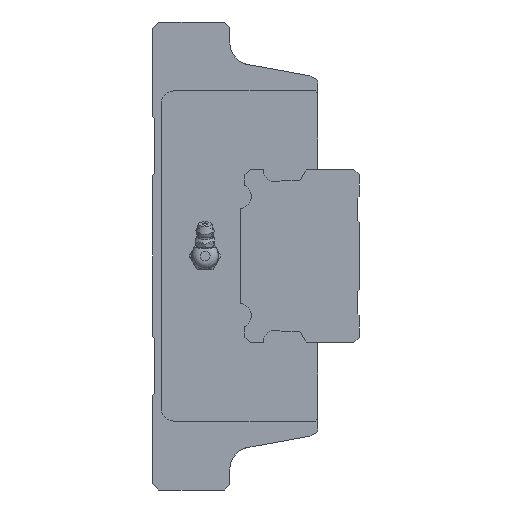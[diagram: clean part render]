
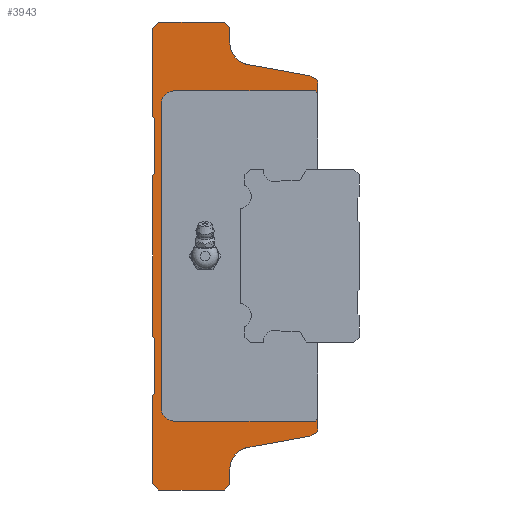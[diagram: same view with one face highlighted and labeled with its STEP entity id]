
A CAD part, left-side view. The second image highlights one B-rep face of the part: STEP entity #3943.
In plain terms, the highlighted planar face has unit normal (-1, 0, 0).
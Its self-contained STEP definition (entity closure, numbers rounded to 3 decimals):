
#188=CIRCLE('',#4250,8.);
#191=CIRCLE('',#4261,8.);
#203=CIRCLE('',#4279,8.);
#204=CIRCLE('',#4282,8.);
#245=CIRCLE('',#4350,5.);
#246=CIRCLE('',#4351,5.);
#1017=ORIENTED_EDGE('',*,*,#1866,.F.);
#1018=ORIENTED_EDGE('',*,*,#1708,.F.);
#1019=ORIENTED_EDGE('',*,*,#1704,.F.);
#1020=ORIENTED_EDGE('',*,*,#1812,.F.);
#1021=ORIENTED_EDGE('',*,*,#1701,.T.);
#1022=ORIENTED_EDGE('',*,*,#1640,.F.);
#1023=ORIENTED_EDGE('',*,*,#1637,.F.);
#1024=ORIENTED_EDGE('',*,*,#1803,.F.);
#1025=ORIENTED_EDGE('',*,*,#1794,.F.);
#1026=ORIENTED_EDGE('',*,*,#1857,.F.);
#1027=ORIENTED_EDGE('',*,*,#1854,.F.);
#1028=ORIENTED_EDGE('',*,*,#1851,.F.);
#1029=ORIENTED_EDGE('',*,*,#1848,.F.);
#1030=ORIENTED_EDGE('',*,*,#1845,.F.);
#1031=ORIENTED_EDGE('',*,*,#1842,.F.);
#1032=ORIENTED_EDGE('',*,*,#1839,.F.);
#1033=ORIENTED_EDGE('',*,*,#1836,.F.);
#1034=ORIENTED_EDGE('',*,*,#1833,.F.);
#1035=ORIENTED_EDGE('',*,*,#1830,.F.);
#1036=ORIENTED_EDGE('',*,*,#1826,.F.);
#1037=ORIENTED_EDGE('',*,*,#1616,.F.);
#1038=ORIENTED_EDGE('',*,*,#1613,.F.);
#1039=ORIENTED_EDGE('',*,*,#1684,.T.);
#1040=ORIENTED_EDGE('',*,*,#1677,.F.);
#1041=ORIENTED_EDGE('',*,*,#1666,.F.);
#1042=ORIENTED_EDGE('',*,*,#1723,.F.);
#1043=ORIENTED_EDGE('',*,*,#1867,.F.);
#1044=ORIENTED_EDGE('',*,*,#1868,.F.);
#1045=ORIENTED_EDGE('',*,*,#1869,.F.);
#1046=ORIENTED_EDGE('',*,*,#1870,.F.);
#1047=ORIENTED_EDGE('',*,*,#1871,.F.);
#1048=ORIENTED_EDGE('',*,*,#1872,.F.);
#1613=EDGE_CURVE('',#2121,#2119,#2488,.T.);
#1616=EDGE_CURVE('',#2119,#2123,#2491,.T.);
#1637=EDGE_CURVE('',#2143,#2141,#2504,.T.);
#1640=EDGE_CURVE('',#2141,#2145,#2507,.T.);
#1666=EDGE_CURVE('',#2163,#2164,#188,.T.);
#1677=EDGE_CURVE('',#2164,#2174,#2524,.T.);
#1684=EDGE_CURVE('',#2121,#2174,#191,.T.);
#1701=EDGE_CURVE('',#2191,#2145,#203,.T.);
#1704=EDGE_CURVE('',#2192,#2193,#204,.T.);
#1708=EDGE_CURVE('',#2193,#2196,#2532,.T.);
#1723=EDGE_CURVE('',#2207,#2163,#2545,.T.);
#1794=EDGE_CURVE('',#2274,#2275,#2582,.T.);
#1803=EDGE_CURVE('',#2275,#2143,#2591,.T.);
#1812=EDGE_CURVE('',#2191,#2192,#2600,.T.);
#1826=EDGE_CURVE('',#2123,#2294,#2613,.T.);
#1830=EDGE_CURVE('',#2294,#2296,#2617,.T.);
#1833=EDGE_CURVE('',#2296,#2298,#2620,.T.);
#1836=EDGE_CURVE('',#2298,#2300,#2623,.T.);
#1839=EDGE_CURVE('',#2300,#2302,#2626,.T.);
#1842=EDGE_CURVE('',#2302,#2304,#2629,.T.);
#1845=EDGE_CURVE('',#2304,#2306,#2632,.T.);
#1848=EDGE_CURVE('',#2306,#2308,#2635,.T.);
#1851=EDGE_CURVE('',#2308,#2310,#2638,.T.);
#1854=EDGE_CURVE('',#2310,#2312,#2641,.T.);
#1857=EDGE_CURVE('',#2312,#2274,#2644,.T.);
#1866=EDGE_CURVE('',#2196,#2320,#2651,.T.);
#1867=EDGE_CURVE('',#2321,#2207,#2652,.T.);
#1868=EDGE_CURVE('',#2322,#2321,#2653,.T.);
#1869=EDGE_CURVE('',#2323,#2322,#245,.F.);
#1870=EDGE_CURVE('',#2324,#2323,#2654,.T.);
#1871=EDGE_CURVE('',#2325,#2324,#246,.F.);
#1872=EDGE_CURVE('',#2320,#2325,#2655,.T.);
#2119=VERTEX_POINT('',#5999);
#2121=VERTEX_POINT('',#6003);
#2123=VERTEX_POINT('',#6008);
#2141=VERTEX_POINT('',#6063);
#2143=VERTEX_POINT('',#6067);
#2145=VERTEX_POINT('',#6072);
#2163=VERTEX_POINT('',#6139);
#2164=VERTEX_POINT('',#6141);
#2174=VERTEX_POINT('',#6174);
#2191=VERTEX_POINT('',#6235);
#2192=VERTEX_POINT('',#6240);
#2193=VERTEX_POINT('',#6242);
#2196=VERTEX_POINT('',#6251);
#2207=VERTEX_POINT('',#6277);
#2274=VERTEX_POINT('',#6419);
#2275=VERTEX_POINT('',#6420);
#2294=VERTEX_POINT('',#6479);
#2296=VERTEX_POINT('',#6486);
#2298=VERTEX_POINT('',#6492);
#2300=VERTEX_POINT('',#6498);
#2302=VERTEX_POINT('',#6504);
#2304=VERTEX_POINT('',#6510);
#2306=VERTEX_POINT('',#6516);
#2308=VERTEX_POINT('',#6522);
#2310=VERTEX_POINT('',#6528);
#2312=VERTEX_POINT('',#6534);
#2320=VERTEX_POINT('',#6557);
#2321=VERTEX_POINT('',#6559);
#2322=VERTEX_POINT('',#6561);
#2323=VERTEX_POINT('',#6563);
#2324=VERTEX_POINT('',#6565);
#2325=VERTEX_POINT('',#6567);
#2488=LINE('',#6004,#2814);
#2491=LINE('',#6010,#2817);
#2504=LINE('',#6068,#2830);
#2507=LINE('',#6074,#2833);
#2524=LINE('',#6173,#2850);
#2532=LINE('',#6250,#2858);
#2545=LINE('',#6278,#2871);
#2582=LINE('',#6418,#2908);
#2591=LINE('',#6436,#2917);
#2600=LINE('',#6452,#2926);
#2613=LINE('',#6478,#2939);
#2617=LINE('',#6485,#2943);
#2620=LINE('',#6491,#2946);
#2623=LINE('',#6497,#2949);
#2626=LINE('',#6503,#2952);
#2629=LINE('',#6509,#2955);
#2632=LINE('',#6515,#2958);
#2635=LINE('',#6521,#2961);
#2638=LINE('',#6527,#2964);
#2641=LINE('',#6533,#2967);
#2644=LINE('',#6539,#2970);
#2651=LINE('',#6556,#2977);
#2652=LINE('',#6558,#2978);
#2653=LINE('',#6560,#2979);
#2654=LINE('',#6564,#2980);
#2655=LINE('',#6568,#2981);
#2814=VECTOR('',#4868,1000.);
#2817=VECTOR('',#4873,1000.);
#2830=VECTOR('',#4902,1000.);
#2833=VECTOR('',#4907,1000.);
#2850=VECTOR('',#4968,1000.);
#2858=VECTOR('',#5038,1000.);
#2871=VECTOR('',#5057,1000.);
#2908=VECTOR('',#5168,1000.);
#2917=VECTOR('',#5179,1000.);
#2926=VECTOR('',#5194,1000.);
#2939=VECTOR('',#5217,1000.);
#2943=VECTOR('',#5223,1000.);
#2946=VECTOR('',#5228,1000.);
#2949=VECTOR('',#5233,1000.);
#2952=VECTOR('',#5238,1000.);
#2955=VECTOR('',#5243,1000.);
#2958=VECTOR('',#5248,1000.);
#2961=VECTOR('',#5253,1000.);
#2964=VECTOR('',#5258,1000.);
#2967=VECTOR('',#5263,1000.);
#2970=VECTOR('',#5268,1000.);
#2977=VECTOR('',#5283,1000.);
#2978=VECTOR('',#5284,1000.);
#2979=VECTOR('',#5285,1000.);
#2980=VECTOR('',#5288,1000.);
#2981=VECTOR('',#5291,1000.);
#3220=EDGE_LOOP('',(#1017,#1018,#1019,#1020,#1021,#1022,#1023,#1024,#1025,
#1026,#1027,#1028,#1029,#1030,#1031,#1032,#1033,#1034,#1035,#1036,#1037,
#1038,#1039,#1040,#1041,#1042,#1043,#1044,#1045,#1046,#1047,#1048));
#3543=FACE_BOUND('',#3220,.T.);
#3763=PLANE('',#4349);
#3943=ADVANCED_FACE('',(#3543),#3763,.F.);
#4250=AXIS2_PLACEMENT_3D('',#6140,#4951,#4952);
#4261=AXIS2_PLACEMENT_3D('',#6189,#4981,#4982);
#4279=AXIS2_PLACEMENT_3D('',#6234,#5019,#5020);
#4282=AXIS2_PLACEMENT_3D('',#6241,#5027,#5028);
#4349=AXIS2_PLACEMENT_3D('',#6555,#5281,#5282);
#4350=AXIS2_PLACEMENT_3D('',#6562,#5286,#5287);
#4351=AXIS2_PLACEMENT_3D('',#6566,#5289,#5290);
#4868=DIRECTION('',(0.,0.,-1.));
#4873=DIRECTION('',(0.,0.707,-0.707));
#4902=DIRECTION('',(0.,-0.707,-0.707));
#4907=DIRECTION('',(0.,0.,-1.));
#4951=DIRECTION('',(1.,0.,0.));
#4952=DIRECTION('',(0.,0.,-1.));
#4968=DIRECTION('',(0.,0.984,-0.178));
#4981=DIRECTION('',(1.,0.,0.));
#4982=DIRECTION('',(0.,0.,-1.));
#5019=DIRECTION('',(1.,0.,0.));
#5020=DIRECTION('',(0.,0.,-1.));
#5027=DIRECTION('',(1.,0.,0.));
#5028=DIRECTION('',(0.,0.,-1.));
#5038=DIRECTION('',(0.,0.,-1.));
#5057=DIRECTION('',(0.,0.,-1.));
#5168=DIRECTION('',(0.,-0.707,0.707));
#5179=DIRECTION('',(0.,-1.,0.));
#5194=DIRECTION('',(0.,-0.984,-0.178));
#5217=DIRECTION('',(0.,1.,0.));
#5223=DIRECTION('',(0.,0.707,0.707));
#5228=DIRECTION('',(0.,0.,1.));
#5233=DIRECTION('',(0.,-0.707,0.707));
#5238=DIRECTION('',(0.,0.,1.));
#5243=DIRECTION('',(0.,0.707,0.707));
#5248=DIRECTION('',(0.,0.,1.));
#5253=DIRECTION('',(0.,-0.707,0.707));
#5258=DIRECTION('',(0.,0.,1.));
#5263=DIRECTION('',(0.,0.707,0.707));
#5268=DIRECTION('',(0.,0.,1.));
#5281=DIRECTION('',(1.,0.,0.));
#5282=DIRECTION('',(0.,0.,-1.));
#5283=DIRECTION('',(0.,0.707,0.707));
#5284=DIRECTION('',(0.,-0.707,0.707));
#5285=DIRECTION('',(0.,-1.,0.));
#5286=DIRECTION('',(1.,0.,0.));
#5287=DIRECTION('',(0.,0.,-1.));
#5288=DIRECTION('',(0.,0.,-1.));
#5289=DIRECTION('',(1.,0.,0.));
#5290=DIRECTION('',(0.,0.,-1.));
#5291=DIRECTION('',(0.,1.,0.));
#5999=CARTESIAN_POINT('',(-71.8,32.,-83.));
#6003=CARTESIAN_POINT('',(-71.8,32.,-77.4));
#6004=CARTESIAN_POINT('',(-71.8,32.,-77.4));
#6008=CARTESIAN_POINT('',(-71.8,34.,-85.));
#6010=CARTESIAN_POINT('',(-71.8,32.,-83.));
#6063=CARTESIAN_POINT('',(-71.8,32.,83.));
#6067=CARTESIAN_POINT('',(-71.8,34.,85.));
#6068=CARTESIAN_POINT('',(-71.8,34.,85.));
#6072=CARTESIAN_POINT('',(-71.8,32.,77.4));
#6074=CARTESIAN_POINT('',(-71.8,32.,83.));
#6139=CARTESIAN_POINT('',(-71.8,0.,-63.609));
#6140=CARTESIAN_POINT('',(-71.8,5.5,-57.8));
#6141=CARTESIAN_POINT('',(-71.8,4.078,-65.673));
#6173=CARTESIAN_POINT('',(-71.8,4.078,-65.673));
#6174=CARTESIAN_POINT('',(-71.8,25.422,-69.527));
#6189=CARTESIAN_POINT('',(-71.8,24.,-77.4));
#6234=CARTESIAN_POINT('',(-71.8,24.,77.4));
#6235=CARTESIAN_POINT('',(-71.8,25.422,69.527));
#6240=CARTESIAN_POINT('',(-71.8,4.078,65.673));
#6241=CARTESIAN_POINT('',(-71.8,5.5,57.8));
#6242=CARTESIAN_POINT('',(-71.8,0.,63.609));
#6250=CARTESIAN_POINT('',(-71.8,0.,63.609));
#6251=CARTESIAN_POINT('',(-71.8,0.,59.));
#6277=CARTESIAN_POINT('',(-71.8,0.,-59.));
#6278=CARTESIAN_POINT('',(-71.8,0.,63.609));
#6418=CARTESIAN_POINT('',(-71.8,60.,82.8));
#6419=CARTESIAN_POINT('',(-71.8,60.,82.8));
#6420=CARTESIAN_POINT('',(-71.8,57.8,85.));
#6436=CARTESIAN_POINT('',(-71.8,57.8,85.));
#6452=CARTESIAN_POINT('',(-71.8,25.422,69.527));
#6478=CARTESIAN_POINT('',(-71.8,34.,-85.));
#6479=CARTESIAN_POINT('',(-71.8,57.8,-85.));
#6485=CARTESIAN_POINT('',(-71.8,57.8,-85.));
#6486=CARTESIAN_POINT('',(-71.8,60.,-82.8));
#6491=CARTESIAN_POINT('',(-71.8,60.,-82.8));
#6492=CARTESIAN_POINT('',(-71.8,60.,-50.8));
#6497=CARTESIAN_POINT('',(-71.8,60.,-50.8));
#6498=CARTESIAN_POINT('',(-71.8,59.2,-50.));
#6503=CARTESIAN_POINT('',(-71.8,59.2,-50.));
#6504=CARTESIAN_POINT('',(-71.8,59.2,-30.));
#6509=CARTESIAN_POINT('',(-71.8,59.2,-30.));
#6510=CARTESIAN_POINT('',(-71.8,60.,-29.2));
#6515=CARTESIAN_POINT('',(-71.8,60.,-29.2));
#6516=CARTESIAN_POINT('',(-71.8,60.,29.2));
#6521=CARTESIAN_POINT('',(-71.8,60.,29.2));
#6522=CARTESIAN_POINT('',(-71.8,59.2,30.));
#6527=CARTESIAN_POINT('',(-71.8,59.2,30.));
#6528=CARTESIAN_POINT('',(-71.8,59.2,50.));
#6533=CARTESIAN_POINT('',(-71.8,59.2,50.));
#6534=CARTESIAN_POINT('',(-71.8,60.,50.8));
#6539=CARTESIAN_POINT('',(-71.8,60.,50.8));
#6555=CARTESIAN_POINT('',(-71.8,24.,77.4));
#6556=CARTESIAN_POINT('',(-71.8,21.2,80.2));
#6557=CARTESIAN_POINT('',(-71.8,1.,60.));
#6558=CARTESIAN_POINT('',(-71.8,-56.2,-2.8));
#6559=CARTESIAN_POINT('',(-71.8,1.,-60.));
#6560=CARTESIAN_POINT('',(-71.8,24.,-60.));
#6561=CARTESIAN_POINT('',(-71.8,52.,-60.));
#6562=CARTESIAN_POINT('',(-71.8,52.,-55.));
#6563=CARTESIAN_POINT('',(-71.8,57.,-55.));
#6564=CARTESIAN_POINT('',(-71.8,57.,77.4));
#6565=CARTESIAN_POINT('',(-71.8,57.,55.));
#6566=CARTESIAN_POINT('',(-71.8,52.,55.));
#6567=CARTESIAN_POINT('',(-71.8,52.,60.));
#6568=CARTESIAN_POINT('',(-71.8,24.,60.));
